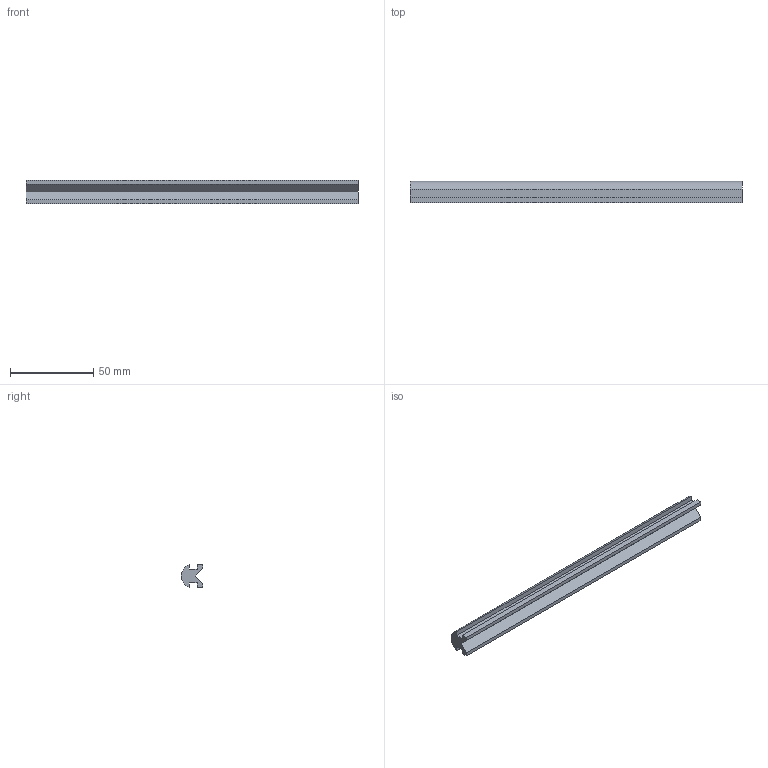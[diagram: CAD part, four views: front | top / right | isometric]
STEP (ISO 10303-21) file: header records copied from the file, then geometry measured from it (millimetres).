
FILE_DESCRIPTION (( 'STEP AP214' ), '1' );
FILE_NAME ('1.6034 Liukuohjain pyöreä.STEP', '2025-09-17T10:16:41', ( '' ), ( '' ), 'SwSTEP 2.0', 'SolidWorks 2025', '' );
FILE_SCHEMA (( 'AUTOMOTIVE_DESIGN' ));
Length unit declared in the file: millimetre
Products named in the file (1): 1.6034 Liukuohjain pyöreä
Bounding box: 200 x 12.97 x 14.14 mm (x, y, z)
Volume: 23003.4 mm3; surface area: 12861.6 mm2
Topology: 1 solids, 1 shells, 15 faces, 39 edges, 26 vertices
Faces by surface type: plane 14, cylinder 1
Entity records: 643 total; most frequent: CARTESIAN_POINT 81, ORIENTED_EDGE 78, DIRECTION 73, EDGE_CURVE 39, VECTOR 37, LINE 37, VERTEX_POINT 26, AXIS2_PLACEMENT_3D 18
